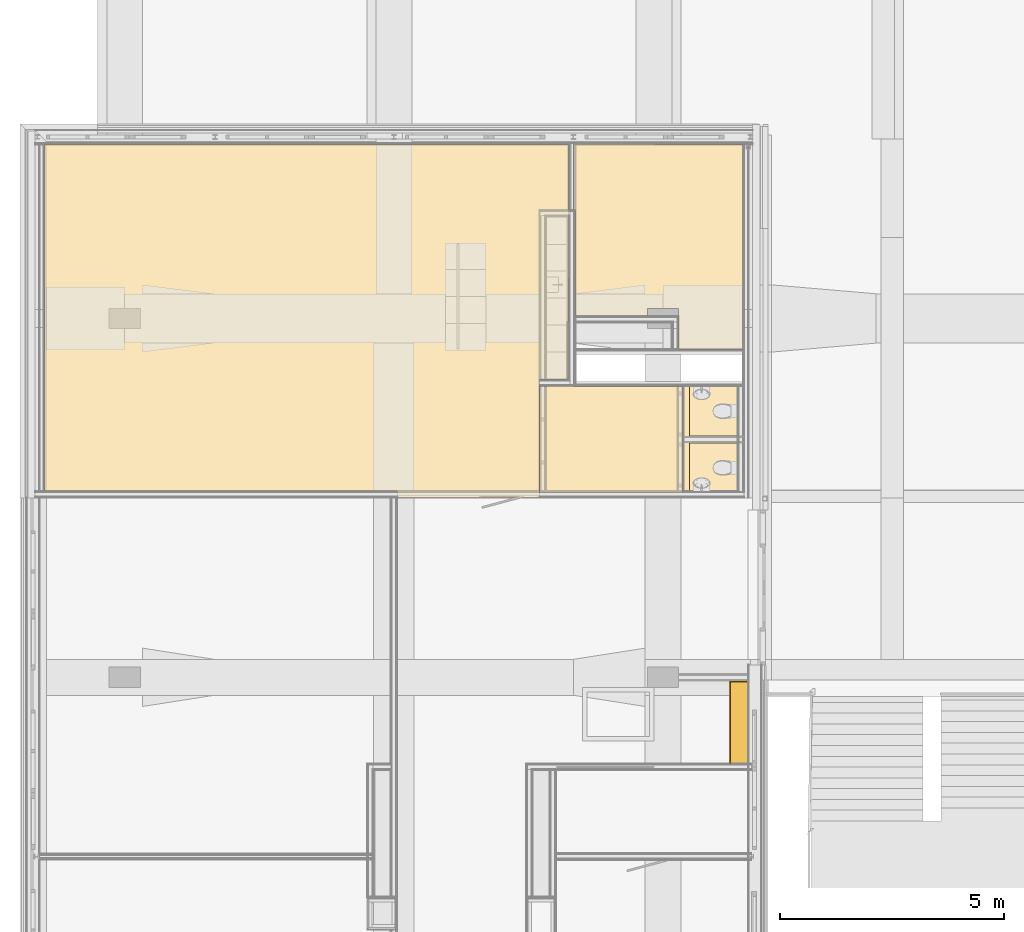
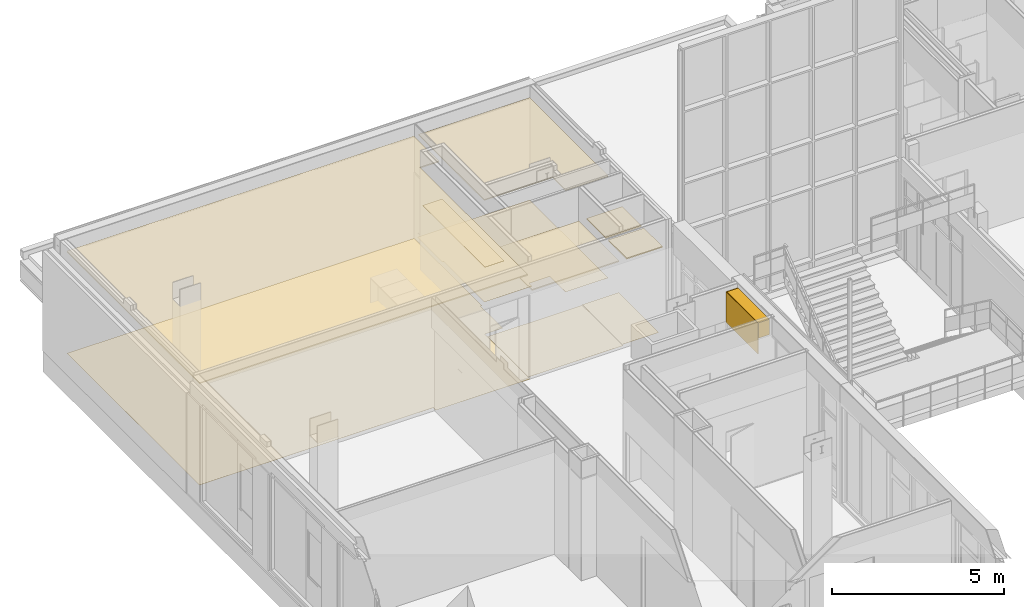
# One storey, part 81 of 94: 12 coverings, 3 openings.
"""IFC2X3 building model written with IfcOpenShell, lengths in millimetres."""

from ifc_helpers import new_model, entity, si_unit, converted_unit, derived_unit, money_unit, direction, frame, origin_with_axes, place, context, subcontext, project, spatial, faceted_brep, material, type_object, element, save


model = new_model("IFC2X3")

# Units and contexts
model_context = context("Model", 3, precision=0.01, world=origin_with_axes(), true_north=direction((0.0, 1.0)))
body_context = subcontext(model_context, "Body", "Model", "MODEL_VIEW")
ifc_project = project(units=[si_unit("LENGTHUNIT", "METRE", prefix="MILLI"), si_unit("AREAUNIT", "SQUARE_METRE"), si_unit("VOLUMEUNIT", "CUBIC_METRE"), converted_unit("PLANEANGLEUNIT", "DEGREE", entity("IfcPlaneAngleMeasure", 0.0174532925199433), si_unit("PLANEANGLEUNIT", "RADIAN"), dimensions=[0, 0, 0, 0, 0, 0, 0]), money_unit("EUR"), converted_unit("TIMEUNIT", "Year", entity("IfcTimeMeasure", 31557600.0), si_unit("TIMEUNIT", "SECOND"), dimensions=[0, 0, 1, 0, 0, 0, 0]), si_unit("MASSUNIT", "GRAM", prefix="KILO"), si_unit("THERMODYNAMICTEMPERATUREUNIT", "DEGREE_CELSIUS"), si_unit("LUMINOUSINTENSITYUNIT", "LUMEN"), si_unit("ENERGYUNIT", "JOULE", prefix="MEGA"), derived_unit("THERMALCONDUCTANCEUNIT", [(si_unit("POWERUNIT", "WATT"), 1), (si_unit("LENGTHUNIT", "METRE"), -1), (si_unit("THERMODYNAMICTEMPERATUREUNIT", "KELVIN"), -1)]), derived_unit("SPECIFICHEATCAPACITYUNIT", [(si_unit("ENERGYUNIT", "JOULE"), 1), (si_unit("MASSUNIT", "GRAM", prefix="KILO"), -1), (si_unit("THERMODYNAMICTEMPERATUREUNIT", "KELVIN"), -1)]), derived_unit("MASSDENSITYUNIT", [(si_unit("MASSUNIT", "GRAM", prefix="KILO"), 1), (si_unit("VOLUMEUNIT", "CUBIC_METRE"), -1)])], contexts=[model_context])

# Site, building, storey
site_placement = place(None, origin_with_axes())
site = spatial("IfcSite", under=ifc_project, at=site_placement, Name="<site naam>", CompositionType="ELEMENT")
building_placement = place(site_placement, origin_with_axes())
building = spatial("IfcBuilding", under=site, at=building_placement, Name="<Naam gebouw>", CompositionType="ELEMENT")
storey_placement = place(building_placement, frame((0.0, 0.0, 4250.0), z_axis=(0.0, 0.0, 1.0), x_axis=(1.0, 0.0, 0.0)))
storey = spatial("IfcBuildingStorey", under=building, at=storey_placement, Name="01 1e verdieping", CompositionType="ELEMENT", Elevation=4250.0)

# Coverings
ifc_material_1 = material(Name="Gietvloer type 02a")
covering_type_1 = type_object("IfcCoveringType", Name="VA-02a 3", PredefinedType="CEILING")
covering_1_placement = place(storey_placement, frame((2435.044484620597, 12149.99993318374, 19.99999999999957), z_axis=(0.0, 0.0, 1.0), x_axis=(1.0, 0.0, 0.0)))
element("IfcCovering", 1, at=covering_1_placement, inside=storey, type_object=covering_type_1, material=ifc_material_1, Name="43_Vloer_VA-02a", PredefinedType="CEILING", context=body_context, shape_type="Brep", body=[
    faceted_brep([(0.0, 0.0, 3.000000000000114), (0.0, 0.0, 0.0), (1230.423215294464, 0.0, 0.0), (1230.423215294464, 0.0, 3.000000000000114), (0.0, 2337.500036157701, 3.000000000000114), (0.0, 2337.500036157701, 0.0), (1230.423215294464, 2337.500036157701, 0.0), (1230.423215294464, 2337.500036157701, 3.000000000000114)], [[[0, 1, 2, 3]], [[4, 5, 1, 0]], [[2, 1, 5, 6]], [[3, 2, 6, 7]], [[4, 0, 3, 7]], [[7, 6, 5, 4]]]),
])
ifc_material_2 = material(Name="systeemplafond 600*600 kleur wit")
covering_type_2 = type_object("IfcCoveringType", Name="PA-01a 40", PredefinedType="CEILING")
covering_2_placement = place(storey_placement, frame((-11784.99999999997, 12150.00000000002, 3600.0), z_axis=(0.0, 0.0, 1.0), x_axis=(1.0, 0.0, 0.0)))
element("IfcCovering", 2, at=covering_2_placement, inside=storey, type_object=covering_type_2, material=ifc_material_2, Name="45_Vloer_PA-01a", PredefinedType="CEILING", context=body_context, shape_type="Brep", body=[
    faceted_brep([(0.0, 0.0, 40.00000000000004), (0.0, 0.0, 0.0), (11033.26484239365, 0.0, 0.0), (11033.26484239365, 0.0, 40.00000000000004), (0.0, 7734.000032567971, 40.00000000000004), (0.0, 7734.000032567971, 0.0), (11674.44245921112, 7734.000032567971, 0.0), (11674.44245921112, 6267.489586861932, 0.0), (11033.38535522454, 6267.489586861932, 0.0), (11033.38535522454, 2487.499916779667, 0.0), (11033.26484239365, 2487.499916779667, 0.0), (11033.26484239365, 2487.499916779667, 40.00000000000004), (11033.38535522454, 2487.499916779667, 40.00000000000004), (11033.38535522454, 6267.489586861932, 40.00000000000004), (11674.44245921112, 6267.489586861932, 40.00000000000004), (11674.44245921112, 7734.000032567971, 40.00000000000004)], [[[0, 1, 2, 3]], [[4, 5, 1, 0]], [[1, 5, 6, 7, 8, 9, 10, 2]], [[3, 2, 10, 11]], [[4, 0, 3, 11, 12, 13, 14, 15]], [[15, 6, 5, 4]], [[14, 7, 6, 15]], [[13, 8, 7, 14]], [[12, 9, 8, 13]], [[11, 10, 9, 12]]]),
])
covering_3_placement = place(storey_placement, frame((1648.244458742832, 14487.49996934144, 3000.0), z_axis=(0.0, 0.0, 1.0), x_axis=(1.0, 0.0, 0.0)))
element("IfcCovering", 3, at=covering_3_placement, inside=storey, type_object=covering_type_2, material=ifc_material_2, Name="45_Vloer_PA-01a", PredefinedType="CEILING", context=body_context, shape_type="Brep", body=[
    faceted_brep([(-2248.246357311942, -2337.499969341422, 40.00000000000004), (679.3000258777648, -2337.499969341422, 40.00000000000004), (679.3000258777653, 0.0, 40.00000000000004), (0.0, 0.0, 40.00000000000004), (0.0, 12.49997454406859, 40.00000000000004), (-1598.246231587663, 12.49997454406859, 40.00000055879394), (-1598.244458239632, 0.0, 40.00000055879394), (-1610.744458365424, 0.0, 40.00000055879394), (-1610.746231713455, 12.49997454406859, 40.00000055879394), (-2248.246357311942, 12.49997454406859, 40.00000000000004), (-2248.246357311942, -2337.499969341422, 0.0), (679.3000258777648, -2337.499969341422, 0.0), (679.3000258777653, 0.0, 0.0), (0.0, 0.0, 0.0), (0.0, 12.49997454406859, 0.0), (-1598.246231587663, 12.49997454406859, 0.0), (-1598.244458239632, 0.0, 0.0), (-1610.744458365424, 0.0, 0.0), (-1610.746231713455, 12.49997454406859, 0.0), (-2248.246357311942, 12.49997454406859, 0.0)], [[[0, 1, 2, 3, 4, 5, 6, 7, 8, 9]], [[10, 11, 1, 0]], [[11, 12, 2, 1]], [[3, 2, 12, 13]], [[4, 3, 13, 14]], [[14, 15, 5, 4]], [[16, 6, 5, 15]], [[17, 7, 6, 16]], [[17, 18, 8, 7]], [[9, 8, 18, 19]], [[0, 9, 19, 10]], [[13, 12, 11, 10, 19, 18, 17, 16, 15, 14]]]),
])
covering_4_placement = place(storey_placement, frame((49.7783591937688, 16061.79699597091, 3600.0), z_axis=(0.0, 0.0, 1.0), x_axis=(1.0, 0.0, 0.0)))
element("IfcCovering", 4, at=covering_4_placement, inside=storey, type_object=covering_type_2, material=ifc_material_2, Name="45_Vloer_PA-01a", PredefinedType="CEILING", context=body_context, shape_type="Brep", body=[
    faceted_brep([(3735.266117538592, -749.2970011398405, 0.0), (3735.266117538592, 3828.703004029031, 0.0), (3735.266117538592, 3828.703004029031, 40.00000000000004), (3735.266117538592, -749.2970011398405, 40.00000000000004), (0.0, 0.0, 0.0), (0.0, 3828.703004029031, 0.0), (2300.221592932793, -749.2970011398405, 0.0), (2300.221592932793, 0.0, 0.0), (0.0, 3828.703004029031, 40.00000000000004), (0.0, 0.0, 40.00000000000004), (2300.221592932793, 0.0, 40.00000000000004), (2300.221592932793, -749.2970011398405, 40.00000000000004)], [[[0, 1, 2, 3]], [[4, 5, 1, 0, 6, 7]], [[5, 8, 2, 1]], [[3, 2, 8, 9, 10, 11]], [[3, 11, 6, 0]], [[9, 8, 5, 4]], [[11, 10, 7, 6]], [[10, 9, 4, 7]]]),
])
covering_5_placement = place(storey_placement, frame((2585.044484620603, 12150.00000000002, 3000.0), z_axis=(0.0, 0.0, 1.0), x_axis=(1.0, 0.0, 0.0)))
element("IfcCovering", 5, at=covering_5_placement, inside=storey, type_object=covering_type_2, material=ifc_material_2, Name="45_Vloer_PA-01a", PredefinedType="CEILING", context=body_context, shape_type="Brep", body=[
    faceted_brep([(0.0, 0.0, 40.00000000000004), (0.0, 0.0, 0.0), (1199.999999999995, 0.0, 0.0), (1199.999999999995, 0.0, 40.00000000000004), (0.0, 1074.999969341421, 40.00000000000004), (0.0, 1074.999969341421, 0.0), (1199.999999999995, 1074.999969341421, 0.0), (1199.999999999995, 1074.999969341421, 40.00000000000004)], [[[0, 1, 2, 3]], [[4, 5, 1, 0]], [[2, 1, 5, 6]], [[3, 2, 6, 7]], [[4, 0, 3, 7]], [[7, 6, 5, 4]]]),
])
covering_6_placement = place(storey_placement, frame((2585.044468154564, 13374.99996934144, 3000.0), z_axis=(0.0, 0.0, 1.0), x_axis=(1.0, 0.0, 0.0)))
element("IfcCovering", 6, at=covering_6_placement, inside=storey, type_object=covering_type_2, material=ifc_material_2, Name="45_Vloer_PA-01a", PredefinedType="CEILING", context=body_context, shape_type="Brep", body=[
    faceted_brep([(0.0, 0.0, 40.00000000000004), (0.0, 0.0, 0.0), (1199.999999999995, 0.0, 0.0), (1199.999999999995, 0.0, 40.00000000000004), (0.0, 1112.500000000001, 40.00000000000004), (0.0, 1112.500000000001, 0.0), (1199.999999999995, 1112.500000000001, 0.0), (1199.999999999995, 1112.500000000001, 40.00000000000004)], [[[0, 1, 2, 3]], [[4, 5, 1, 0]], [[2, 1, 5, 6]], [[3, 2, 6, 7]], [[4, 0, 3, 7]], [[7, 6, 5, 4]]]),
])
ifc_material_3 = material(Name="tapijttegel")
covering_type_3 = type_object("IfcCoveringType", Name="VA-05 3", PredefinedType="CEILING")
covering_7_placement = place(storey_placement, frame((49.5272662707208, 16050.00006351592, 0.0), z_axis=(0.0, 0.0, 1.0), x_axis=(1.0, 0.0, 0.0)))
element("IfcCovering", 7, at=covering_7_placement, inside=storey, type_object=covering_type_3, material=ifc_material_3, Name="43_Vloer_VA-05", PredefinedType="CEILING", context=body_context, shape_type="Brep", body=[
    faceted_brep([(0.0, 0.0, 3.000000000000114), (0.0, 0.0, 0.0), (1600.472752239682, 0.0, 0.0), (1600.472752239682, 0.0, 3.000000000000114), (0.0, 2367.494586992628, 3.000000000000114), (0.0, 2367.494586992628, 0.0), (-46.0847381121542, 2367.548488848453, 0.0), (-44.36950116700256, 3834.033161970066, 0.0), (3735.517185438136, 3833.237411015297, 0.0), (3735.517185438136, -737.5000686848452, 0.0), (2300.472714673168, -737.5000686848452, 0.0), (2300.472714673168, 174.9999054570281, 0.0), (1600.472752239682, 174.9999054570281, 0.0), (1600.472752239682, 174.9999054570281, 3.000000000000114), (2300.472714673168, 174.9999054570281, 3.000000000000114), (2300.472714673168, -737.5000686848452, 3.000000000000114), (3735.517185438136, -737.5000686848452, 3.000000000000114), (3735.517185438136, 3833.237411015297, 3.000000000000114), (-44.36950116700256, 3834.033161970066, 3.000000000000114), (-46.0847381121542, 2367.548488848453, 3.000000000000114)], [[[0, 1, 2, 3]], [[4, 5, 1, 0]], [[2, 1, 5, 6, 7, 8, 9, 10, 11, 12]], [[3, 2, 12, 13]], [[4, 0, 3, 13, 14, 15, 16, 17, 18, 19]], [[19, 6, 5, 4]], [[18, 7, 6, 19]], [[17, 8, 7, 18]], [[16, 9, 8, 17]], [[15, 10, 9, 16]], [[14, 11, 10, 15]], [[13, 12, 11, 14]]]),
])
ifc_material_4 = material(Name="aftimmering/koven multiplex")
covering_type_4 = type_object("IfcCoveringType", Name="aftimmering/koven multiplex 1100", PredefinedType="CEILING")
covering_8_placement = place(storey_placement, frame((3484.001752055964, 7925.000000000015, 3000.0), z_axis=(0.0, 0.0, 1.0), x_axis=(1.0, 0.0, 0.0)))
element("IfcCovering", 8, at=covering_8_placement, inside=storey, type_object=covering_type_4, material=ifc_material_4, Name="45_Vloer_aftimmering/koven", PredefinedType="CEILING", context=body_context, shape_type="Brep", body=[
    faceted_brep([(0.0, 0.0, 1099.999999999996), (0.0, 0.0, 0.0), (0.0, -1849.999995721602, 0.0), (0.0, -1849.999995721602, 1099.999999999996), (400.0426929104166, 0.0, 1099.999999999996), (400.0426929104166, 0.0, 0.0), (400.0426929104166, -20.00331191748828, 0.0), (20.01380157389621, -20.00331191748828, 0.0), (20.01380157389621, -1849.999995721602, 0.0), (20.01380157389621, -1849.999995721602, 1099.999999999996), (20.01380157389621, -20.00331191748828, 1099.999999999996), (400.0426929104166, -20.00331191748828, 1099.999999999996)], [[[0, 1, 2, 3]], [[4, 5, 1, 0]], [[2, 1, 5, 6, 7, 8]], [[3, 2, 8, 9]], [[4, 0, 3, 9, 10, 11]], [[11, 6, 5, 4]], [[10, 7, 6, 11]], [[9, 8, 7, 10]]]),
])
ifc_material_5 = material(Name="Vinyl type 01d")
covering_type_5 = type_object("IfcCoveringType", Name="VA-01d 3", PredefinedType="CEILING")
covering_9_placement = place(storey_placement, frame((-11784.99999999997, 15774.99994773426, 0.0), z_axis=(0.0, 0.0, 1.0), x_axis=(1.0, 0.0, 0.0)))
element("IfcCovering", 9, at=covering_9_placement, inside=storey, type_object=covering_type_5, material=ifc_material_5, Name="43_Vloer_VA-01d", PredefinedType="CEILING", context=body_context, shape_type="Brep", body=[
    faceted_brep([(0.0, -3625.000061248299, 3.000000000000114), (0.0, -3625.000061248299, 0.0), (7860.001383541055, -3625.000061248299, 0.0), (7860.001383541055, -3625.000061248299, 3.000000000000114), (0.0, 4103.641307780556, 3.000000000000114), (0.0, 4103.641307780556, 0.0), (11674.44253821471, 4101.996802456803, 0.0), (11674.44253821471, 2642.489702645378, 0.0), (11684.57161150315, 2642.489702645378, 0.0), (11682.77910940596, 149.964434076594, 0.0), (11633.26496065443, 150.0001274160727, 0.0), (11635.00000518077, -1137.500066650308, 0.0), (11035.04459100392, -1137.500066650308, 0.0), (11035.04459100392, -3775.000014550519, 0.0), (7860.000164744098, -3774.934199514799, 0.0), (7860.000164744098, -3774.934199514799, 3.000000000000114), (11035.04459100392, -3775.000014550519, 3.000000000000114), (11035.04459100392, -1137.500066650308, 3.000000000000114), (11635.00000518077, -1137.500066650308, 3.000000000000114), (11633.26496065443, 150.0001274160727, 3.000000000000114), (11682.77910940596, 149.964434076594, 3.000000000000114), (11684.57161150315, 2642.489702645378, 3.000000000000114), (11674.44253821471, 2642.489702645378, 3.000000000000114), (11674.44253821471, 4101.996802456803, 3.000000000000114)], [[[0, 1, 2, 3]], [[4, 5, 1, 0]], [[1, 5, 6, 7, 8, 9, 10, 11, 12, 13, 14, 2]], [[3, 2, 14, 15]], [[4, 0, 3, 15, 16, 17, 18, 19, 20, 21, 22, 23]], [[23, 6, 5, 4]], [[22, 7, 6, 23]], [[21, 8, 7, 22]], [[20, 9, 8, 21]], [[19, 10, 9, 20]], [[18, 11, 10, 19]], [[17, 12, 11, 18]], [[16, 13, 12, 17]], [[15, 14, 13, 16]]]),
])

# Covering, openings
covering_10_placement = place(storey_placement, frame((2435.044484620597, 14487.49996934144, 0.0), z_axis=(0.0, 0.0, 1.0), x_axis=(1.0, 0.0, 0.0)))
covering_10 = element("IfcCovering", 10, at=covering_10_placement, inside=storey, type_object=covering_type_5, material=ifc_material_5, Name="43_Vloer_VA-01d", PredefinedType="CEILING", context=body_context, shape_type="Brep", body=[
    faceted_brep([(0.0, 0.0, 3.000000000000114), (0.0, 0.0, 0.0), (-3185.00004528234, 0.0, 0.0), (-3185.00004528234, 0.0, 3.000000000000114), (0.0, -2373.811278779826, 3.000000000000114), (0.0, -2373.811278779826, 0.0), (-3185.00004528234, -2373.811278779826, 0.0), (-3185.00004528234, -2373.811278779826, 3.000000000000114)], [[[0, 1, 2, 3]], [[4, 5, 1, 0]], [[2, 1, 5, 6]], [[3, 2, 6, 7]], [[4, 0, 3, 7]], [[7, 6, 5, 4]]]),
])
opening_1_placement = place(covering_10_placement, frame((-2435.044484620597, -14487.49996934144, -4250.0), z_axis=(0.0, 0.0, 1.0), x_axis=(1.0, 0.0, 0.0)))
element("IfcOpeningElement", 11, at=opening_1_placement, cuts=covering_10, Name="43_Opening_", context=body_context, shape_type="Brep", body=[
    faceted_brep([(398.2648792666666, 15175.00000000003, 4247.0), (1698.264879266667, 15175.00000000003, 4247.0), (1698.264879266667, 15175.00000000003, 4256.0), (398.2648792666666, 15175.00000000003, 4256.0), (398.2648792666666, 15775.00000000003, 4247.0), (1698.264879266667, 15775.00000000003, 4247.0), (1698.264879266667, 15775.00000000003, 4256.0), (398.2648792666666, 15775.00000000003, 4256.0)], [[[0, 1, 2, 3]], [[0, 4, 5, 1]], [[1, 5, 6, 2]], [[3, 2, 6, 7]], [[4, 0, 3, 7]], [[5, 4, 7, 6]]]),
])
opening_2_placement = place(covering_10_placement, frame((-2435.044484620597, -14487.49996934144, -4250.0), z_axis=(0.0, 0.0, 1.0), x_axis=(1.0, 0.0, 0.0)))
element("IfcOpeningElement", 12, at=opening_2_placement, cuts=covering_10, Name="43_Opening_", context=body_context, shape_type="Brep", body=[
    faceted_brep([(-1.735131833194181, 15174.99998124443, 4247.0), (248.2648792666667, 15174.99998124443, 4247.0), (248.2648792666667, 15174.99998124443, 4256.0), (-1.735131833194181, 15174.99998124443, 4256.0), (-1.735131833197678, 15775.00000000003, 4247.0), (248.2648681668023, 15775.00000000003, 4247.0), (248.2648681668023, 15775.00000000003, 4256.0), (-1.735131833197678, 15775.00000000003, 4256.0)], [[[0, 1, 2, 3]], [[0, 4, 5, 1]], [[1, 5, 6, 2]], [[3, 2, 6, 7]], [[4, 0, 3, 7]], [[5, 4, 7, 6]]]),
])
opening_3_placement = place(covering_10_placement, frame((-2435.044484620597, -14487.49996934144, -4250.0), z_axis=(0.0, 0.0, 1.0), x_axis=(1.0, 0.0, 0.0)))
element("IfcOpeningElement", 13, at=opening_3_placement, cuts=covering_10, Name="43_Opening_", context=body_context, shape_type="Brep", body=[
    faceted_brep([(2350.000000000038, 15175.00000000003, 4247.0), (3650.000000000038, 15175.00000000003, 4247.0), (3650.000000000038, 15175.00000000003, 4256.0), (2350.000000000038, 15175.00000000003, 4256.0), (2350.000000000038, 15775.00000000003, 4247.0), (3650.000000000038, 15775.00000000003, 4247.0), (3650.000000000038, 15775.00000000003, 4256.0), (2350.000000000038, 15775.00000000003, 4256.0)], [[[0, 1, 2, 3]], [[0, 4, 5, 1]], [[1, 5, 6, 2]], [[3, 2, 6, 7]], [[4, 0, 3, 7]], [[5, 4, 7, 6]]]),
])

# Coverings
covering_type_6 = type_object("IfcCoveringType", Name="aftimmering/koven multiplex 543", PredefinedType="CEILING")
covering_11_placement = place(storey_placement, frame((3484.001752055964, 6075.000000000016, 3556.999963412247), z_axis=(0.0, 0.0, 1.0), x_axis=(1.0, 0.0, 0.0)))
element("IfcCovering", 14, at=covering_11_placement, inside=storey, type_object=covering_type_6, material=ifc_material_4, Name="45_Vloer_aftimmering/koven", PredefinedType="CEILING", context=body_context, shape_type="Brep", body=[
    faceted_brep([(0.0, 0.0, 543.000036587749), (0.0, 0.0, 0.0), (400.0427037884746, 0.0, 0.0), (400.0427037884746, 0.0, 543.000036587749), (0.0, 1850.0, 543.000036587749), (0.0, 1850.0, 0.0), (400.0427037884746, 1850.0, 0.0), (400.0427037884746, 1850.0, 543.000036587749)], [[[0, 1, 2, 3]], [[4, 5, 1, 0]], [[1, 5, 6, 2]], [[3, 2, 6, 7]], [[4, 0, 3, 7]], [[7, 6, 5, 4]]]),
])
covering_type_7 = type_object("IfcCoveringType", Name="aftimmering/koven multiplex 10", PredefinedType="CEILING")
covering_12_placement = place(storey_placement, frame((-750.7703989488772, 14637.29890934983, 2367.0), z_axis=(0.0, 0.0, 1.0), x_axis=(1.0, 0.0, 0.0)))
element("IfcCovering", 15, at=covering_12_placement, inside=storey, type_object=covering_type_7, material=ifc_material_4, Name="45_Vloer_aftimmering/koven", PredefinedType="CEILING", context=body_context, shape_type="Brep", body=[
    faceted_brep([(0.0, 0.0, 9.999999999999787), (0.0, 0.0, 0.0), (651.1972271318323, 0.0, 0.0), (651.1972271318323, 0.0, 9.999999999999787), (0.0, 3629.991674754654, 9.999999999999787), (0.0, 3629.991674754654, 0.0), (651.1972271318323, 3629.991674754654, 0.0), (651.1972271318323, 3629.991674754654, 9.999999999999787)], [[[0, 1, 2, 3]], [[4, 5, 1, 0]], [[2, 1, 5, 6]], [[3, 2, 6, 7]], [[4, 0, 3, 7]], [[7, 6, 5, 4]]]),
])

save(model, "model.ifc")
